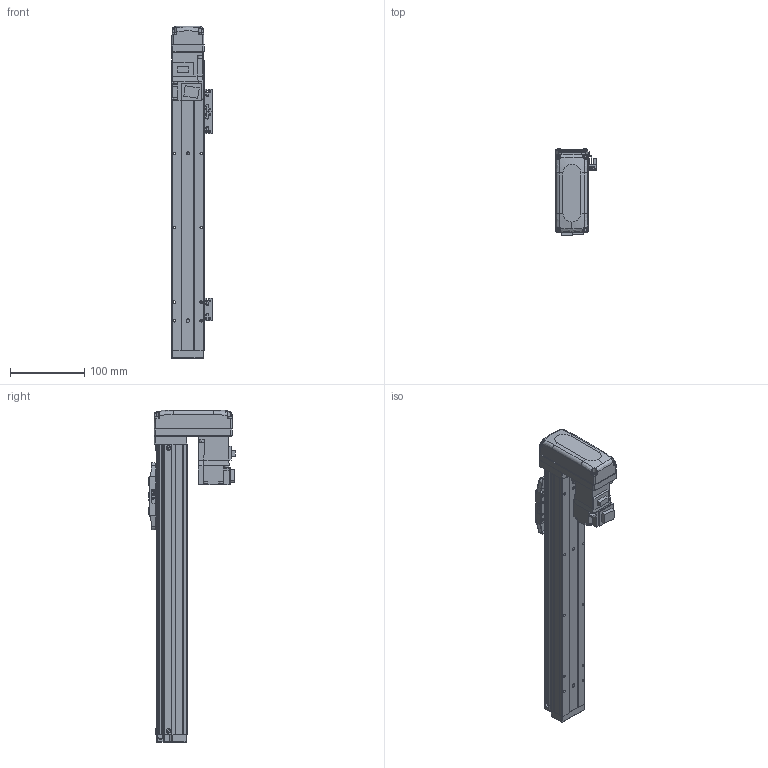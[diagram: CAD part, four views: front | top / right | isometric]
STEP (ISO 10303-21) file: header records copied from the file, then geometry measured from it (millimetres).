
FILE_DESCRIPTION (( 'STEP AP203' ), '1' );
FILE_NAME ('BTH40-250-BM-M05-C4.step', '2021-12-16T00:18:23', ( '微软用户' ), ( '微软中国' ), 'SwSTEP 2.0', 'SolidWorks 2020', '' );
FILE_SCHEMA (( 'CONFIG_CONTROL_DESIGN' ));
Length unit declared in the file: millimetre
Products named in the file (19): BTH50-023; BTH40-013; BTH40-001-50_BTH40-001-250; BTH50-024; HG-KR13; BTH40-003; GBT 70.1-M3℅6; GBT 70.3-M3℅6; BTH40-006; GBT96.1-2002 3×0.8; BTH40-027-1; BTH-M3X5X6; BTH40-022; BTH50-026; GBT70.1-2000 M3×16; GBT 70.1-M2.5×6; BTH40-250-BM-M05-C4; BTH50-028; BTH40-004
Assembly tree (47 placements, depth 2):
  BTH40-250-BM-M05-C4
    BTH40-001-50_BTH40-001-250
    BTH40-003
    BTH40-006
    BTH-M3X5X6  x8
    GBT70.1-2000 M3×16  x4
    BTH50-028  x2
    BTH50-023  x3
    BTH50-024  x3
    GBT 70.1-M3℅6  x6
    GBT96.1-2002 3×0.8  x6
    BTH40-022
    GBT 70.1-M2.5×6  x2
    BTH40-004
    BTH40-013
    HG-KR13
    GBT 70.3-M3℅6  x4
    BTH40-027-1
    BTH50-026
Bounding box: 55.2 x 115.8 x 446 mm (x, y, z)
Volume: 909482.8 mm3; surface area: 176656.9 mm2
Topology: 49 solids, 49 shells, 1975 faces, 4635 edges, 2850 vertices
Faces by surface type: plane 1052, cylinder 487, cone 270, torus 128, bspline 34, sphere 4
Entity records: 39395 total; most frequent: CARTESIAN_POINT 7546, DIRECTION 6168, ORIENTED_EDGE 5916, EDGE_CURVE 2958, AXIS2_PLACEMENT_3D 2107, LINE 1954, VECTOR 1954, VERTEX_POINT 1837
